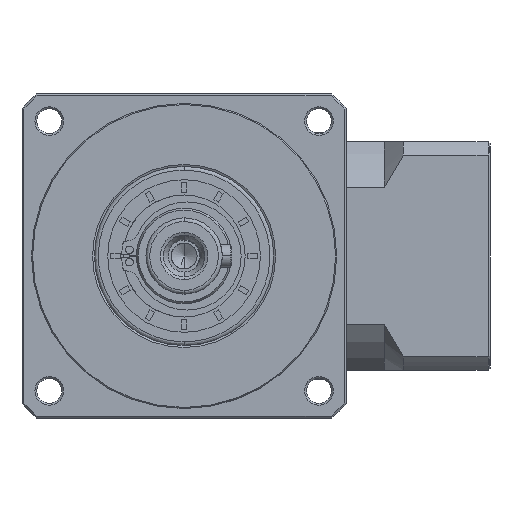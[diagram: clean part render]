
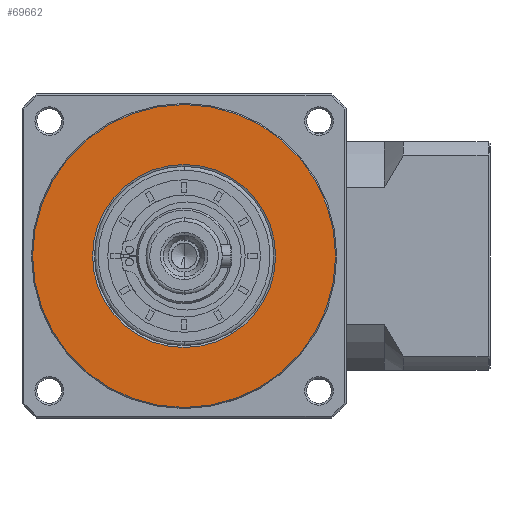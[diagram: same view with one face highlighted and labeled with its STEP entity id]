
A CAD part, left-side view. The second image highlights one B-rep face of the part: STEP entity #69662.
In plain terms, the highlighted planar face has unit normal (-1, 0, 0).
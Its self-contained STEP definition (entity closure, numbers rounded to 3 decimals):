
#4178 = CARTESIAN_POINT ( 'NONE',  ( -174.343, 153.179, 67.294 ) ) ;
#8327 = CARTESIAN_POINT ( 'NONE',  ( -174.343, 153.179, 43.294 ) ) ;
#13817 = DIRECTION ( 'NONE',  ( 1., 0., 0. ) ) ;
#16834 = ORIENTED_EDGE ( 'NONE', *, *, #40271, .T. ) ;
#21973 = DIRECTION ( 'NONE',  ( 0., 0., -1. ) ) ;
#22714 = VERTEX_POINT ( 'NONE', #123383 ) ;
#30328 = CARTESIAN_POINT ( 'NONE',  ( -174.343, 153.179, 19.294 ) ) ;
#33564 = EDGE_CURVE ( 'NONE', #98783, #160604, #37590, .T. ) ;
#37590 = CIRCLE ( 'NONE', #67232, 24. ) ;
#40271 = EDGE_CURVE ( 'NONE', #160604, #98783, #54082, .T. ) ;
#44520 = EDGE_LOOP ( 'NONE', ( #145403, #148303 ) ) ;
#46826 = AXIS2_PLACEMENT_3D ( 'NONE', #138607, #57361, #152293 ) ;
#54082 = CIRCLE ( 'NONE', #46826, 24. ) ;
#55570 = AXIS2_PLACEMENT_3D ( 'NONE', #8327, #103432, #21973 ) ;
#55794 = DIRECTION ( 'NONE',  ( 1., 0., 0. ) ) ;
#57361 = DIRECTION ( 'NONE',  ( 1., 0., 0. ) ) ;
#57714 = FACE_BOUND ( 'NONE', #89256, .T. ) ;
#58854 = DIRECTION ( 'NONE',  ( 1., 0., 0. ) ) ;
#58889 = AXIS2_PLACEMENT_3D ( 'NONE', #140111, #58854, #153781 ) ;
#67232 = AXIS2_PLACEMENT_3D ( 'NONE', #137095, #55794, #150753 ) ;
#69662 = ADVANCED_FACE ( 'NONE', ( #125564, #57714 ), #130084, .T. ) ;
#84286 = CIRCLE ( 'NONE', #89525, 39.711 ) ;
#89256 = EDGE_LOOP ( 'NONE', ( #16834, #158997 ) ) ;
#89525 = AXIS2_PLACEMENT_3D ( 'NONE', #95316, #13817, #108920 ) ;
#93424 = CIRCLE ( 'NONE', #58889, 39.711 ) ;
#93784 = EDGE_CURVE ( 'NONE', #22714, #152167, #84286, .T. ) ;
#95316 = CARTESIAN_POINT ( 'NONE',  ( -174.343, 153.179, 43.294 ) ) ;
#98783 = VERTEX_POINT ( 'NONE', #4178 ) ;
#103432 = DIRECTION ( 'NONE',  ( -1., 0., 0. ) ) ;
#108920 = DIRECTION ( 'NONE',  ( 0., 1., 0. ) ) ;
#122821 = CARTESIAN_POINT ( 'NONE',  ( -174.343, 192.89, 43.294 ) ) ;
#123383 = CARTESIAN_POINT ( 'NONE',  ( -174.343, 113.467, 43.294 ) ) ;
#125564 = FACE_OUTER_BOUND ( 'NONE', #44520, .T. ) ;
#130084 = PLANE ( 'NONE',  #55570 ) ;
#135590 = EDGE_CURVE ( 'NONE', #152167, #22714, #93424, .T. ) ;
#137095 = CARTESIAN_POINT ( 'NONE',  ( -174.343, 153.179, 43.294 ) ) ;
#138607 = CARTESIAN_POINT ( 'NONE',  ( -174.343, 153.179, 43.294 ) ) ;
#140111 = CARTESIAN_POINT ( 'NONE',  ( -174.343, 153.179, 43.294 ) ) ;
#145403 = ORIENTED_EDGE ( 'NONE', *, *, #135590, .F. ) ;
#148303 = ORIENTED_EDGE ( 'NONE', *, *, #93784, .F. ) ;
#150753 = DIRECTION ( 'NONE',  ( 0., 0., -1. ) ) ;
#152167 = VERTEX_POINT ( 'NONE', #122821 ) ;
#152293 = DIRECTION ( 'NONE',  ( 0., 0., -1. ) ) ;
#153781 = DIRECTION ( 'NONE',  ( 0., 1., 0. ) ) ;
#158997 = ORIENTED_EDGE ( 'NONE', *, *, #33564, .T. ) ;
#160604 = VERTEX_POINT ( 'NONE', #30328 ) ;
